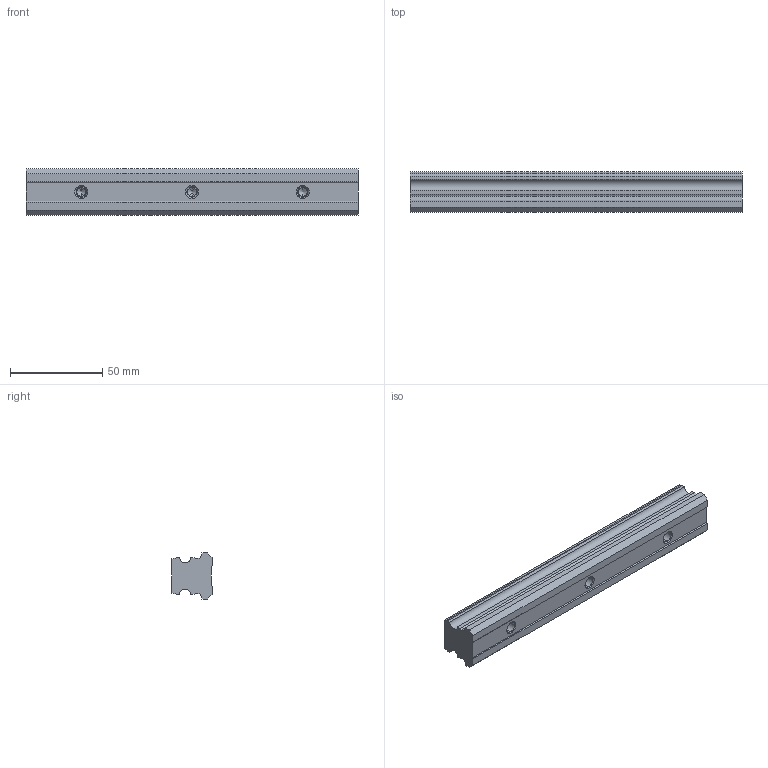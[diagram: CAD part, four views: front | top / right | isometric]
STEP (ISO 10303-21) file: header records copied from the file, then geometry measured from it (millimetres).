
FILE_DESCRIPTION (( 'STEP AP203' ), '1' );
FILE_NAME ('L1018.25R-0180.step', '2023-08-06T10:32:02', ( '' ), ( '' ), 'SwSTEP 2.0', 'SolidWorks 2019', '' );
FILE_SCHEMA (( 'CONFIG_CONTROL_DESIGN' ));
Length unit declared in the file: millimetre
Products named in the file (1): L1018.25R-0180
Bounding box: 180 x 21.8 x 25 mm (x, y, z)
Volume: 74859.9 mm3; surface area: 18719 mm2
Topology: 1 solids, 1 shells, 56 faces, 141 edges, 87 vertices
Faces by surface type: plane 29, cylinder 15, cone 12
Entity records: 1700 total; most frequent: DIRECTION 285, CARTESIAN_POINT 279, ORIENTED_EDGE 270, EDGE_CURVE 135, VECTOR 99, LINE 99, AXIS2_PLACEMENT_3D 93, VERTEX_POINT 87
